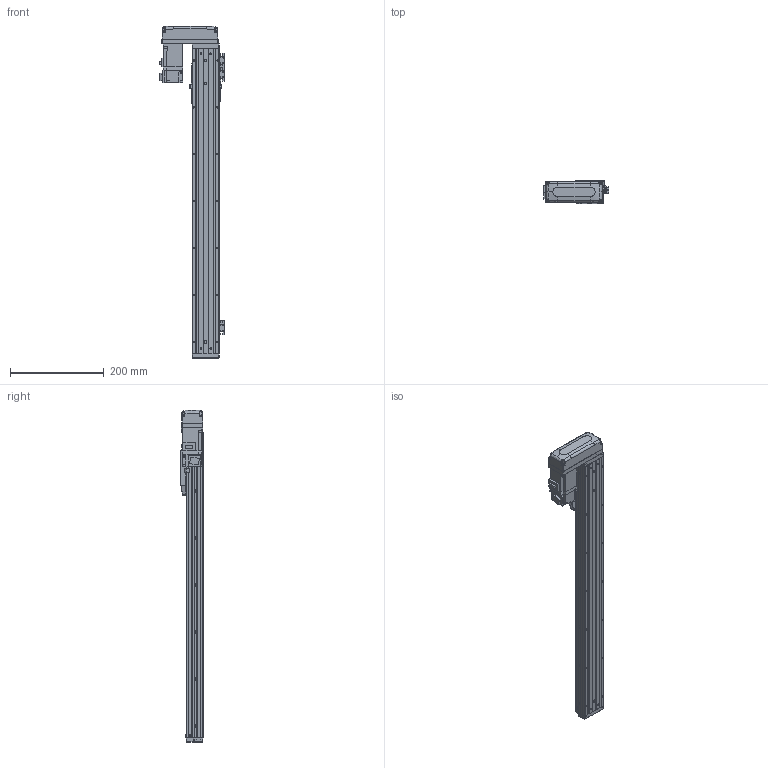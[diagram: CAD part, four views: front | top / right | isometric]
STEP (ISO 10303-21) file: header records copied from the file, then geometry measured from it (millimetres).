
FILE_DESCRIPTION (( 'STEP AP203' ), '1' );
FILE_NAME ('CTHA50-500-BR-M10-C4L.step', '2022-03-19T06:07:29', ( '微软用户' ), ( '微软中国' ), 'SwSTEP 2.0', 'SolidWorks 2020', '' );
FILE_SCHEMA (( 'CONFIG_CONTROL_DESIGN' ));
Length unit declared in the file: millimetre
Products named in the file (20): KTHA50-001_650; CTHA60-017; CTHA50-031; KTHA50-004; GBT 70.1-M4×12; GBT 70.3-M3℅6; KTHA50-005; CTHA60-016; CTHA50-015-2_CTHA60-015-2; GB¨uT 70.2-M3¡Á6_M3¡Á6; CTHA60-021; CTHA60-033; EE_SX911P_R; HG-KR13（三菱）; GBT 70.1-M3×15; GBT77-2000 M3×3; CTHA50-002; CTHA50-500-BR-M10-C4L; GBT 70.1-M3℅6; CTHA50-030
Assembly tree (60 placements, depth 2):
  CTHA50-500-BR-M10-C4L
    KTHA50-001_650
    KTHA50-004
    KTHA50-005
    GB¨uT 70.2-M3¡Á6_M3¡Á6  x10
    EE_SX911P_R  x3
    GBT77-2000 M3×3  x6
    GBT 70.1-M3℅6  x6
    CTHA60-017  x3
    GBT 70.1-M4×12  x10
    CTHA60-016  x2
    CTHA60-021  x2
    HG-KR13（三菱）
    CTHA50-002
    CTHA50-030  x2
    CTHA50-031
    GBT 70.3-M3℅6  x4
    CTHA50-015-2_CTHA60-015-2
    CTHA60-033
    GBT 70.1-M3×15  x4
Bounding box: 139.12 x 48 x 707 mm (x, y, z)
Volume: 1382947.4 mm3; surface area: 354213.7 mm2
Topology: 62 solids, 62 shells, 2533 faces, 6023 edges, 3690 vertices
Faces by surface type: plane 1434, cylinder 588, cone 353, torus 108, bspline 26, sphere 24
Entity records: 43331 total; most frequent: CARTESIAN_POINT 7995, DIRECTION 6755, ORIENTED_EDGE 6554, EDGE_CURVE 3277, VECTOR 2295, LINE 2295, AXIS2_PLACEMENT_3D 2230, VERTEX_POINT 2064
